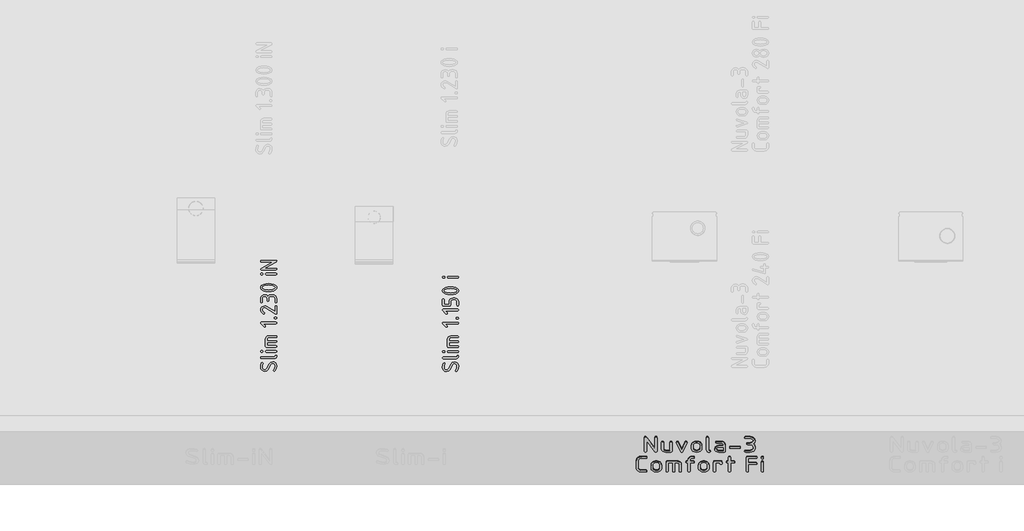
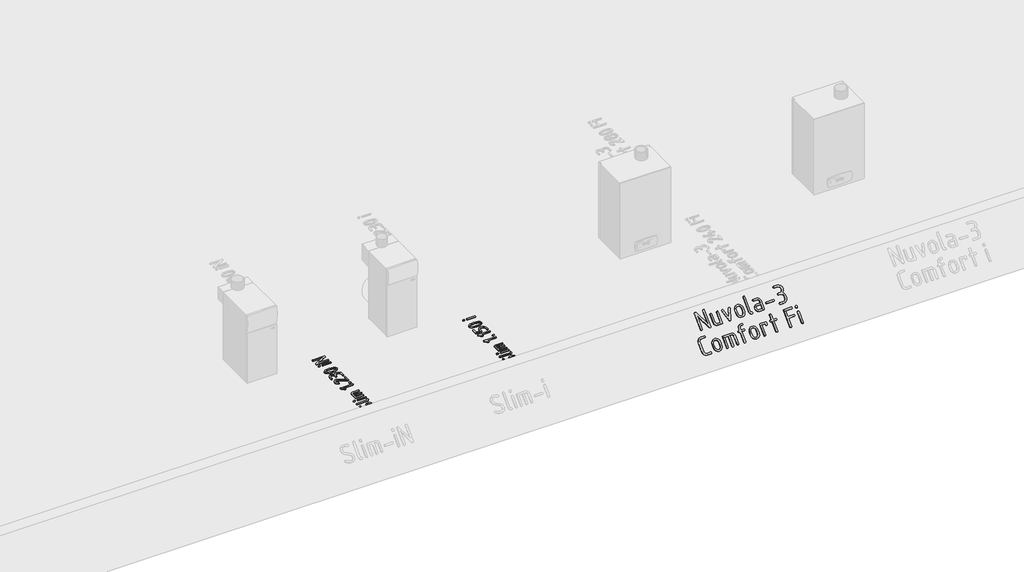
# One storey, part 3 of 37: 3 proxies.
"""IFC4 building model written with IfcOpenShell, lengths in millimetres."""

import ifcopenshell
import ifcopenshell.guid

model = None  # the IFC model being written
_history = None  # IfcOwnerHistory: only IFC2X3 demands one
_inside = {}  # id of a spatial element -> (the spatial element, [elements in it])
_under = {}  # id of a project, library or spatial element -> (it, [spatial elements below it])
_declared = {}  # id of a project -> (the project, [libraries it declares])
_typed = {}  # id of a type object -> (the type object, [elements of that type])
_made_of = {}  # id of a material, layer set ... -> (it, [elements and type objects made of it])


def new_model(schema):
    """Start an empty IFC model of exactly this schema.

    Asked for "IFC4X3", IfcOpenShell would pick the latest addendum, in which some entities
    have other attributes; the version numbers below select the first issue.
    IFC2X3 requires an IfcOwnerHistory on every rooted entity: one is made here for all.
    """
    global model, _history
    if schema == "IFC4X3":
        model = ifcopenshell.file(schema_version=(4, 3, 0, 0))
    else:
        model = ifcopenshell.file(schema=schema)
    _inside.clear()
    _under.clear()
    _declared.clear()
    _typed.clear()
    _made_of.clear()
    _history = None
    if model.schema == "IFC2X3":
        org = make("IfcOrganization", Name="unknown")
        user = make(
            "IfcPersonAndOrganization",
            ThePerson=make("IfcPerson", FamilyName="unknown"),
            TheOrganization=org,
        )
        app = make(
            "IfcApplication",
            ApplicationDeveloper=org,
            Version="unknown",
            ApplicationFullName="unknown",
            ApplicationIdentifier="unknown",
        )
        _history = make(
            "IfcOwnerHistory",
            OwningUser=user,
            OwningApplication=app,
            ChangeAction="ADDED",
            CreationDate=0,
        )
    return model


def make(cls, **values):
    """One entity of the class cls with the attributes given. An attribute that is None is left unset."""
    return model.create_entity(
        cls, **{name: value for name, value in values.items() if value is not None}
    )


def rooted(cls, **values):
    """An entity with a GlobalId (a new one), such as an element, a storey or a relation."""
    return make(cls, GlobalId=ifcopenshell.guid.new(), OwnerHistory=_history, **values)


def si_unit(unit_type, name, prefix=None):
    """IfcSIUnit, for example si_unit("LENGTHUNIT", "METRE", prefix="MILLI")."""
    return make("IfcSIUnit", UnitType=unit_type, Prefix=prefix, Name=name)


def assignment(units):
    """IfcUnitAssignment: the units of a project."""
    return None if units is None else make("IfcUnitAssignment", Units=units)


def point(xyz):
    """IfcCartesianPoint."""
    return None if xyz is None else make("IfcCartesianPoint", Coordinates=xyz)


def direction(xyz):
    """IfcDirection."""
    return None if xyz is None else make("IfcDirection", DirectionRatios=xyz)


def frame(location, z_axis=None, x_axis=None):
    """IfcAxis2Placement3D, a coordinate frame: its origin and axes. An axis left out is left unset."""
    return make(
        "IfcAxis2Placement3D",
        Location=point(location),
        Axis=direction(z_axis),
        RefDirection=direction(x_axis),
    )


def origin():
    """The frame at (0, 0, 0) with its axes left unset."""
    return frame((0.0, 0.0, 0.0))


def origin_with_axes():
    """The frame at (0, 0, 0) with the z axis (0, 0, 1) and the x axis (1, 0, 0) written out."""
    return frame((0.0, 0.0, 0.0), z_axis=(0.0, 0.0, 1.0), x_axis=(1.0, 0.0, 0.0))


def place(relative_to, where):
    """IfcLocalPlacement: puts the frame where relative to a parent placement (None: the world)."""
    return make(
        "IfcLocalPlacement", PlacementRelTo=relative_to, RelativePlacement=where
    )


def context(
    kind, dimensions, precision=None, world=None, true_north=None, identifier=None
):
    """IfcGeometricRepresentationContext, for example the 3D "Model" context."""
    return make(
        "IfcGeometricRepresentationContext",
        ContextIdentifier=identifier,
        ContextType=kind,
        CoordinateSpaceDimension=dimensions,
        Precision=precision,
        WorldCoordinateSystem=world,
        TrueNorth=true_north,
    )


def project(units=None, contexts=None):
    """IfcProject with its units and contexts."""
    return rooted(
        "IfcProject",
        Name="project",
        RepresentationContexts=contexts,
        UnitsInContext=assignment(units),
    )


def spatial(cls, under=None, at=None, **own):
    """A site, building, storey or space (cls), placed at a placement, below another one or the project."""
    s = rooted(cls, ObjectPlacement=at, **own)
    if under is not None:
        _under.setdefault(under.id(), (under, []))[1].append(s)
    return s


def polyline(points):
    """IfcPolyline through the points."""
    return make("IfcPolyline", Points=[point(p) for p in points])


def outline(outer, holes=None, kind="AREA"):
    """IfcArbitraryClosedProfileDef: a profile drawn as a closed curve; with holes, ...WithVoids."""
    if holes is None:
        return make("IfcArbitraryClosedProfileDef", ProfileType=kind, OuterCurve=outer)
    return make(
        "IfcArbitraryProfileDefWithVoids",
        ProfileType=kind,
        OuterCurve=outer,
        InnerCurves=holes,
    )


def extrude(swept, where, along, depth):
    """IfcExtrudedAreaSolid: the profile swept, set in the frame where, extruded along a direction by depth."""
    return make(
        "IfcExtrudedAreaSolid",
        SweptArea=swept,
        Position=where,
        ExtrudedDirection=direction(along),
        Depth=depth,
    )


def shape(context_of_items, identifier, shape_type, items):
    """IfcShapeRepresentation: the items that make up one representation, for example the "Body"."""
    return make(
        "IfcShapeRepresentation",
        ContextOfItems=context_of_items,
        RepresentationIdentifier=identifier,
        RepresentationType=shape_type,
        Items=items,
    )


def made_of(thing, what):
    """Note that an element or type object is made of a material, layer set ...; save() writes the relation."""
    if what is not None:
        _made_of.setdefault(what.id(), (what, []))[1].append(thing)
    return thing


def element(
    cls,
    number,
    at=None,
    inside=None,
    cuts=None,
    type_object=None,
    material=None,
    context=None,
    identifier="Body",
    shape_type=None,
    held_by="IfcProductDefinitionShape",
    body=None,
    shapes=None,
    **own,
):
    """One element of the class cls, such as IfcWall. Its Tag is "e" and its number.

    at: its placement. inside: the storey or other place that contains it. cuts: it is an
    opening in that element (IfcRelVoidsElement). A single representation is given by context,
    identifier, shape_type and body (its items); several are given by shapes. held_by: the class
    of the entity that holds the representations. save() writes the other relations.
    """
    e = rooted(cls, Tag="e%d" % number, ObjectPlacement=at, **own)
    if body is not None:
        shapes = [shape(context, identifier, shape_type, body)]
    if shapes is not None:
        e.Representation = make(held_by, Representations=shapes)
    if inside is not None:
        _inside.setdefault(inside.id(), (inside, []))[1].append(e)
    if cuts is not None:
        rooted(
            "IfcRelVoidsElement", RelatingBuildingElement=cuts, RelatedOpeningElement=e
        )
    if type_object is not None:
        _typed.setdefault(type_object.id(), (type_object, []))[1].append(e)
    return made_of(e, material)


def aggregate(whole, parts):
    """IfcRelAggregates: a whole, such as a stair, and the parts it consists of."""
    return rooted("IfcRelAggregates", RelatingObject=whole, RelatedObjects=parts)


def save(model, path):
    """Write the relations noted so far, then the file.

    IfcRelAggregates (storeys below a building ...), IfcRelContainedInSpatialStructure (elements
    in a storey), IfcRelDefinesByType, IfcRelAssociatesMaterial and IfcRelDeclares: one each for
    every whole, place, type object, material and project.
    """
    for whole, parts in _under.values():
        aggregate(whole, parts)
    for where, things in _inside.values():
        rooted(
            "IfcRelContainedInSpatialStructure",
            RelatedElements=things,
            RelatingStructure=where,
        )
    for kind, things in _typed.values():
        rooted("IfcRelDefinesByType", RelatedObjects=things, RelatingType=kind)
    for what, things in _made_of.values():
        rooted("IfcRelAssociatesMaterial", RelatedObjects=things, RelatingMaterial=what)
    for by, libraries in _declared.values():
        rooted("IfcRelDeclares", RelatingContext=by, RelatedDefinitions=libraries)
    model.write(path)


model = new_model("IFC4")

# Units and contexts
model_context = context("Model", 3, world=origin())
ifc_project = project(units=[si_unit("LENGTHUNIT", "METRE", prefix="MILLI")], contexts=[model_context])

# Site, building, storey
site = spatial("IfcSite", under=ifc_project)
building = spatial("IfcBuilding", under=site)
storey = spatial("IfcBuildingStorey", under=building, Name="01_Стартовый вид_Площадка", Elevation=0.0)

# Proxies
placement = place(None, origin())
element("IfcBuildingElementProxy", 1, Name="200мм", ObjectType="200мм", at=placement, inside=storey, context=model_context, shape_type="SweptSolid", body=[
    extrude(outline(polyline([(165.9671598, 0.0), (40.6608856, 67.170734), (35.2139133, 72.9916979), (36.6196324, 80.9414621), (42.4620105, 86.5129444), (50.3250152, 85.1990626), (209.8569446, -0.3184174), (215.2284159, -6.2802276), (213.5961937, -14.6525307), (204.6529485, -20.7376114), (37.6998645, -20.2091043), (163.146985, -87.4553394), (168.5939573, -93.2763033), (167.1882381, -101.2260674), (161.3458601, -106.7975498), (153.4828554, -105.4836681), (-6.049074, -19.9661881), (-11.4457124, -14.0513265), (-9.8889912, -5.8198697), (-5.9444736, -1.6183991), (0.0, 0.0), (165.9671598, 0.0)])), frame((7586.0225318, -17788.7783658, 342.895709), z_axis=(0.0, -0.7071067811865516, 0.7071067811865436), x_axis=(0.47245297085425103, -0.6232127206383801, -0.6232127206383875)), (0.0, 0.0, 1.0), 10.0),
    extrude(outline(polyline([(7.8963813, 0.0), (121.2937941, -38.8098098), (127.5601634, -43.5725011), (127.5101015, -51.4095223), (111.503211, -98.1796552), (103.80573, -111.7461768), (91.4765408, -120.9968587), (76.511249, -124.9537749), (60.9054607, -122.6389988), (-24.1173995, -93.5402659), (-30.3578956, -88.7019763), (-30.230214, -80.6381603), (-25.39024, -74.1871075), (-17.4938587, -74.1871075), (67.1762096, -103.1650988), (82.2515298, -102.3002329), (92.2362967, -91.3041202), (104.7416798, -54.7649537), (1.2728405, -19.3531584), (-4.9676556, -14.5148688), (-4.8399741, -6.4510528), (0.0, 0.0), (7.8963813, 0.0)])), frame((7822.1098657, -17829.7126865, 301.9613883), z_axis=(0.0, -0.7071067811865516, 0.7071067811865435), x_axis=(0.32380687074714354, -0.6690101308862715, -0.6690101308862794)), (0.0, 0.0, 1.0), 10.0),
    extrude(outline(polyline([(96.1517088, 0.0), (19.2606322, 57.6472069), (15.5287173, 62.6149091), (15.8152429, 68.8515986), (20.5700797, 75.3083542), (28.3862454, 75.3786797), (31.3161309, 73.7258089), (131.0539392, -1.1025435), (135.7413426, -6.7405071), (135.7620595, -13.2342994), (131.8882837, -18.3988127), (124.8584474, -20.1499858), (0.0197136, -19.9445869), (-3.3153034, -19.5042778), (-8.9970028, -14.4888853), (-9.4886026, -6.8829879), (-5.9601388, -1.7013876), (0.0, 0.0), (96.1517088, 0.0)])), frame((7884.6474401, -17832.7731084, 298.9009664), z_axis=(0.0, -0.7071067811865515, 0.7071067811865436), x_axis=(0.31689249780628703, -0.6706635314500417, -0.6706635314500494)), (0.0, 0.0, 1.0), 10.0),
    extrude(outline(polyline([(19.5277269, 0.0), (58.788553, -7.3971647), (76.977393, -14.5033742), (90.8173497, -28.1486773), (98.6171829, -45.8732873), (98.6856532, -65.2174179), (91.5847544, -83.4140343), (77.9948347, -97.0679287), (60.19967, -104.6308689), (40.4830362, -104.5546222), (1.2222101, -97.1574575), (-16.96663, -90.0512481), (-30.8065866, -76.405945), (-38.6064198, -58.681335), (-38.6748901, -39.3372044), (-31.5717162, -21.3442893), (-17.856617, -7.6733255), (0.0, 0.0), (19.5277269, 0.0)]), holes=[polyline([(5.5853839, -77.1644064), (44.8985577, -84.5714339), (56.5989582, -84.6144501), (67.3060997, -80.1473936), (75.5187712, -72.1612621), (79.7357613, -61.6470531), (79.6340604, -50.3191559), (74.8906592, -39.89196), (66.5432132, -31.8348129), (55.6293779, -27.6170623), (16.3162041, -20.2100347), (4.5148066, -20.1276624), (-6.1812392, -24.5358276), (-14.3509512, -32.5097259), (-18.5733473, -43.1245527), (-18.4716465, -54.4524499), (-13.7282453, -64.8796457), (-5.3677123, -72.9392586), (5.5853839, -77.1644064)])]), frame((8008.9701672, -17905.0649832, 226.6090916), z_axis=(0.0, -0.7071067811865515, 0.7071067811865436), x_axis=(-0.18515314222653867, 0.6948806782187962, 0.6948806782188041)), (0.0, 0.0, 1.0), 10.0),
    extrude(outline(polyline([(160.9250531, 0.0), (168.4759059, -2.5569025), (170.9928568, -10.2276101), (168.4759059, -17.8983177), (160.9250531, -20.4552202), (0.0, -20.4552202), (-6.365622, -22.9521954), (-10.014535, -30.4431208), (-13.6767652, -37.9340461), (-20.0823387, -40.4310213), (-27.6331915, -37.9407047), (-30.1501423, -30.4697552), (-28.1525623, -18.1713203), (-22.159822, -8.4431052), (-12.6247063, -2.1107763), (0.0, 0.0), (160.9250531, 0.0)])), frame((8145.1318857, -17905.4699005, 226.2041743), z_axis=(0.0, -0.7071067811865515, 0.7071067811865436), x_axis=(0.0, 0.7071067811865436, 0.7071067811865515)), (0.0, 0.0, 1.0), 10.0),
    extrude(outline(polyline([(50.2324811, 0.0), (65.7203855, -2.9630771), (78.6247529, -11.8523086), (87.3342022, -25.0429959), (90.2373519, -40.9104405), (84.9104717, -61.5254671), (70.5678465, -76.7470275), (50.2324811, -81.820881), (10.2276102, -81.820881), (10.2276102, -100.5714995), (15.9806409, -113.9153346), (30.2034112, -119.3221182), (70.2082821, -119.3221182), (77.7191833, -121.8790207), (80.222817, -129.5497283), (77.7191833, -137.2204358), (70.2082821, -139.7773383), (30.2034112, -139.7773383), (14.628945, -136.8875059), (1.5714297, -128.2180082), (-7.2778501, -115.3402751), (-10.2276101, -99.8257363), (-10.2276101, -9.9612661), (-7.6707076, -2.4903165), (0.0, 0.0), (50.2324811, 0.0)]), holes=[polyline([(10.2276102, -61.3656607), (50.2324811, -61.3656607), (57.9231645, -59.8741343), (64.3753482, -55.3995548), (68.7500486, -48.7942233), (70.2082821, -40.9104405), (64.295445, -26.5012294), (57.8232854, -21.9667224), (50.2324811, -20.4552202), (10.2276102, -20.4552202), (10.2276102, -61.3656607)])]), frame((8312.1828512, -17926.7892706, 204.8848042), z_axis=(0.0, -0.7071067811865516, 0.7071067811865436), x_axis=(-1.0, 0.0, 0.0)), (0.0, 0.0, 1.0), 10.0),
    extrude(outline(polyline([(7.934191, 0.0), (83.6754056, -25.7842432), (89.9616024, -30.6252263), (89.8596757, -38.6935314), (85.0176197, -45.1481756), (77.0834286, -45.1481755), (1.3422141, -19.3639323), (-4.9439827, -14.5229492), (-4.8420559, -6.454644), (0.0, 0.0), (7.934191, 0.0)])), frame((8460.3766605, -17888.8212051, 242.8528697), z_axis=(0.0, -0.7071067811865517, 0.7071067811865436), x_axis=(-0.9466499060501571, -0.22787491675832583, -0.22787491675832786)), (0.0, 0.0, 1.0), 10.0),
    extrude(outline(polyline([(11.7053441, 0.0), (31.3410585, 3.6703332), (39.1938897, 2.537007), (43.0643073, -4.5430923), (42.0127057, -12.5432218), (35.0994797, -16.4366385), (15.4637653, -20.1069717), (4.4652691, -24.43209), (-3.8154004, -32.787719), (-8.4170171, -43.7206871), (-8.3783556, -55.7778225), (-4.0517069, -66.9657026), (4.2497875, -75.5003524), (15.0165566, -80.3362531), (26.7390288, -80.4278864), (66.0628196, -73.0774325), (73.9156509, -74.2107586), (77.7860684, -81.2908578), (76.7344668, -89.2909873), (69.8212408, -93.184404), (30.49745, -100.5348579), (10.8458725, -100.387662), (-7.2665742, -92.3117814), (-21.2427029, -78.0977854), (-28.4853271, -59.5362437), (-27.7768506, -36.0744134), (-16.3140932, -15.6421798), (-34.2831279, -1.266837), (-43.2938981, 19.6873188), (-46.9348687, 39.1659475), (-46.7759269, 58.6097289), (-38.723534, 76.4129584), (-24.658181, 90.0971196), (-6.4603584, 97.1836959), (32.8634324, 104.5341498), (40.7162637, 103.4008237), (44.5866812, 96.3207245), (43.5350796, 88.320595), (36.6218536, 84.4271783), (-2.7019372, 77.0767244), (-13.7175616, 72.8432393), (-22.0496157, 64.7625103), (-26.727086, 54.235347), (-26.7789594, 42.6625591), (-23.177139, 23.393378), (-18.9410252, 12.6898456), (-10.7153843, 4.5610006), (0.0, 0.0), (11.7053441, 0.0)])), frame((8563.0256434, -17858.400611, 273.2734638), z_axis=(0.0, -0.7071067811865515, 0.7071067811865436), x_axis=(-0.9829750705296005, 0.12992307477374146, 0.12992307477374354)), (0.0, 0.0, 1.0), 10.0),
    extrude(outline(polyline([(40.0048709, 0.0), (47.515772, -2.5569025), (50.0194058, -10.2276102), (47.515772, -17.8983177), (40.0048709, -20.4552203), (0.0, -20.4552203), (-11.6059404, -22.6525583), (-21.2808867, -29.2445727), (-27.8129737, -38.952812), (-29.990336, -50.498825), (-29.990336, -150.6441742), (-27.7929979, -162.1901872), (-21.2009835, -171.8984266), (-11.5060614, -178.4904408), (0.0, -180.687779), (40.0048709, -180.687779), (47.515772, -183.2446815), (50.0194058, -190.9153891), (47.515772, -198.5860967), (40.0048709, -201.1429993), (0.0, -201.1429993), (-19.2899652, -197.4674519), (-35.6101947, -186.4408097), (-46.7367159, -170.1938249), (-50.4455562, -150.8572495), (-50.4455562, -50.2857498), (-46.7367159, -30.9491744), (-35.6101947, -14.7021895), (-19.2899652, -3.6755474), (0.0, 0.0), (40.0048709, 0.0)])), frame((7539.3057918, -17969.373123, 162.3009518), z_axis=(0.0, -0.7071067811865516, 0.7071067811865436), x_axis=(1.0, 0.0, 0.0)), (0.0, 0.0, 1.0), 10.0),
    extrude(outline(polyline([(19.5277269, 0.0), (58.788553, -7.3971647), (76.977393, -14.5033742), (90.8173496, -28.1486773), (98.6171829, -45.8732873), (98.6856532, -65.2174179), (91.5847544, -83.4140343), (77.9948347, -97.0679287), (60.19967, -104.6308689), (40.4830362, -104.5546223), (1.2222101, -97.1574576), (-16.96663, -90.0512481), (-30.8065866, -76.405945), (-38.6064198, -58.681335), (-38.6748903, -39.3372044), (-31.5717162, -21.3442893), (-17.856617, -7.6733255), (0.0, 0.0), (19.5277269, 0.0)]), holes=[polyline([(5.5853839, -77.1644064), (44.8985576, -84.5714339), (56.5989582, -84.6144501), (67.3060997, -80.1473937), (75.5187712, -72.1612621), (79.7357613, -61.6470531), (79.6340604, -50.3191559), (74.8906592, -39.8919599), (66.5432132, -31.8348129), (55.6293778, -27.6170623), (16.3162041, -20.2100347), (4.5148066, -20.1276624), (-6.1812392, -24.5358276), (-14.3509512, -32.5097259), (-18.5733473, -43.1245527), (-18.4716465, -54.4524499), (-13.7282453, -64.8796458), (-5.3677123, -72.9392586), (5.5853839, -77.1644064)])]), frame((7632.253194, -18089.8784143, 41.7956605), z_axis=(0.0, -0.7071067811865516, 0.7071067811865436), x_axis=(-0.18515314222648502, 0.6948806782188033, 0.6948806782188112)), (0.0, 0.0, 1.0), 10.0),
    extrude(outline(polyline([(8.0648268, 0.0), (95.6150095, -28.42341), (109.8146858, -36.0716859), (119.6837276, -48.390632), (124.162071, -63.3839268), (122.1896524, -79.0552479), (94.4406404, -164.5281403), (89.7017561, -170.8444537), (81.6369293, -170.8444538), (75.110059, -166.1072187), (74.9850443, -158.211827), (102.6189151, -73.0935938), (103.610512, -65.2736838), (101.3875032, -57.8242882), (96.4501456, -51.7058983), (89.2986962, -47.8790061), (69.8431, -41.5626928), (36.0738519, -145.5792003), (31.3349677, -151.8955137), (23.2701408, -151.8955138), (16.7432705, -147.1582787), (16.6182558, -139.262887), (50.3875039, -35.2463794), (11.4763116, -22.6137528), (-22.2929365, -126.6302604), (-27.0318208, -132.9465737), (-35.0966477, -132.9465738), (-41.6235179, -128.2093387), (-41.7485327, -120.313947), (-4.7388842, -6.3163133), (0.0, 0.0), (8.0648268, 0.0)])), frame((7770.971815, -18014.5261176, 117.1479572), z_axis=(0.0, -0.7071067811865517, 0.7071067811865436), x_axis=(0.9511311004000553, 0.21834563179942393, 0.21834563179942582)), (0.0, 0.0, 1.0), 10.0),
    extrude(outline(polyline([(7.934191, 0.0), (17.4144495, -3.2273221), (24.0064265, 16.1366103), (31.937533, 30.1983411), (44.6412242, 39.8077515), (59.9046175, 44.0019023), (75.5148299, 41.8178539), (84.9950884, 38.5905318), (91.243465, 33.7624237), (91.1289316, 25.6984102), (86.2994823, 19.2394745), (78.4031114, 19.2265995), (68.9228529, 22.4539216), (61.1239831, 23.533272), (53.5614223, 21.3810086), (47.2914533, 16.5378797), (43.3703589, 9.5446333), (36.7783819, -9.8192991), (65.2191575, -19.5012652), (71.4675341, -24.3293733), (71.3530007, -32.3933868), (66.5235514, -38.8523225), (58.6271806, -38.8651975), (30.186405, -29.1832313), (-5.0566385, -132.7096717), (-9.8847467, -138.9580483), (-17.9487602, -138.8435149), (-24.4076959, -134.0140656), (-24.4205709, -126.1176947), (10.8224726, -22.5912543), (1.3422141, -19.3639323), (-4.9439827, -14.5229492), (-4.842056, -6.4546441), (0.0, 0.0), (7.934191, 0.0)])), frame((7955.441679, -18014.573201, 117.1008738), z_axis=(0.0, -0.7071067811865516, 0.7071067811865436), x_axis=(0.9466499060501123, 0.2278749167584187, 0.22787491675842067)), (0.0, 0.0, 1.0), 10.0),
    extrude(outline(polyline([(19.5277269, 0.0), (58.788553, -7.3971647), (76.977393, -14.5033742), (90.8173496, -28.1486772), (98.6171829, -45.8732872), (98.6856532, -65.2174178), (91.5847544, -83.4140342), (77.9948347, -97.0679287), (60.19967, -104.6308688), (40.4830362, -104.5546222), (1.2222101, -97.1574575), (-16.96663, -90.051248), (-30.8065866, -76.405945), (-38.6064198, -58.6813349), (-38.6748903, -39.3372043), (-31.5717162, -21.3442892), (-17.856617, -7.6733254), (0.0, 0.0), (19.5277269, 0.0)]), holes=[polyline([(5.5853839, -77.1644063), (44.8985576, -84.5714338), (56.5989582, -84.61445), (67.3060997, -80.1473936), (75.5187712, -72.161262), (79.7357613, -61.647053), (79.6340604, -50.3191559), (74.8906592, -39.8919599), (66.5432132, -31.8348128), (55.6293778, -27.6170622), (16.3162041, -20.2100346), (4.5148067, -20.1276623), (-6.1812392, -24.5358276), (-14.3509512, -32.5097258), (-18.5733473, -43.1245526), (-18.4716464, -54.4524498), (-13.7282453, -64.8796457), (-5.3677123, -72.9392585), (5.5853839, -77.1644063)])]), frame((8075.4496331, -18089.8784143, 41.7956605), z_axis=(0.0, -0.7071067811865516, 0.7071067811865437), x_axis=(-0.1851531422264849, 0.6948806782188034, 0.6948806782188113)), (0.0, 0.0, 1.0), 10.0),
    extrude(outline(polyline([(119.8548062, 0.0), (127.3257557, -2.5569026), (129.8160723, -10.2276102), (129.8160723, -70.4746261), (127.2591698, -77.9455757), (119.5884622, -80.4358922), (99.3463171, -80.4358922), (91.8354159, -77.9455757), (89.3317822, -70.4746261), (91.8354159, -62.9637249), (99.3463171, -60.4600912), (109.3608521, -60.4600912), (109.3608521, -20.4552203), (0.0, -20.4552203), (-7.4709496, -17.8983178), (-9.9612662, -10.2276102), (-7.4709496, -2.5569026), (0.0, 0.0), (119.8548062, 0.0)])), frame((8211.6113515, -18104.5590229, 27.1150519), z_axis=(0.0, -0.7071067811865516, 0.7071067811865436), x_axis=(0.0, 0.7071067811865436, 0.7071067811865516)), (0.0, 0.0, 1.0), 10.0),
    extrude(outline(polyline([(109.3608521, 0.0), (109.3608521, 10.0145349), (111.9177546, 17.5254361), (119.5884622, 20.0290698), (127.2591698, 17.5254361), (129.8160723, 10.0145349), (129.8160723, 0.0), (180.9541229, 0.0), (188.6248306, -2.5569025), (191.1817331, -10.2276101), (188.6248306, -17.8983177), (180.9541229, -20.4552203), (129.8160723, -20.4552203), (129.8160723, -50.498825), (127.2591698, -57.9697746), (119.5884622, -60.4600911), (111.9177546, -57.9697746), (109.3608521, -50.498825), (109.3608521, -20.4552203), (0.0, -20.4552203), (-7.4709496, -17.8983177), (-9.9612662, -10.2276101), (-7.4709496, -2.5569025), (0.0, 0.0), (109.3608521, 0.0)])), frame((8351.38869, -18104.5590229, 27.1150519), z_axis=(0.0, -0.7071067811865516, 0.7071067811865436), x_axis=(0.0, 0.7071067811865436, 0.7071067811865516)), (0.0, 0.0, 1.0), 10.0),
    extrude(outline(polyline([(7.9720216, 0.0), (179.416636, -58.0553192), (185.7484838, -62.8989575), (185.6722013, -70.971688), (159.9419745, -146.956264), (155.1111501, -153.2502709), (147.0426908, -153.1613747), (140.5802352, -148.3297495), (140.5674213, -140.3955688), (163.0173004, -74.0982693), (104.8936407, -54.4161835), (82.4437616, -120.7134829), (77.6129371, -127.0074898), (69.5444779, -126.9185936), (63.0820221, -122.0869683), (63.0692083, -114.1527876), (85.5190874, -47.8554882), (1.2599626, -19.3232978), (-4.9583623, -14.5181011), (-4.844239, -6.4581844), (0.0, 0.0), (7.9720216, 0.0)])), frame((8520.996558, -18109.8229487, 21.8511261), z_axis=(0.0, -0.7071067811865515, 0.7071067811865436), x_axis=(-0.32073452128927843, 0.669749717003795, 0.6697497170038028)), (0.0, 0.0, 1.0), 10.0),
    extrude(outline(polyline([(-40.4252129, 16.4627759), (-34.1768363, 11.6346677), (-34.2913697, 3.5706542), (-39.120819, -2.8882816), (-47.0171899, -2.9011565), (-160.6290116, 35.7752083), (-166.9152084, 40.6161914), (-166.8132817, 48.6844966), (-161.9712257, 55.1391407), (-154.0370346, 55.1391407), (-40.4252129, 16.4627759)])), frame((8660.7738965, -17988.8468233, 142.8272515), z_axis=(0.0, -0.7071067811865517, 0.7071067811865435), x_axis=(-0.3222637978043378, 0.6693825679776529, 0.6693825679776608)), (0.0, 0.0, 1.0), 10.0),
    extrude(outline(polyline([(7.9341911, 0.0), (17.4144496, -3.227322), (23.7006464, -8.0683052), (23.5987197, -16.1366103), (18.7566637, -22.5912544), (10.8224727, -22.5912544), (1.3422141, -19.3639323), (-4.9439827, -14.5229493), (-4.8420559, -6.4546441), (0.0, 0.0), (7.9341911, 0.0)])), frame((8660.7738965, -17988.8468233, 142.8272515), z_axis=(0.0, -0.7071067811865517, 0.7071067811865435), x_axis=(-0.3222637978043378, 0.6693825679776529, 0.6693825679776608)), (0.0, 0.0, 1.0), 10.0),
])
element("IfcBuildingElementProxy", 2, Name="150 мм", ObjectType="150 мм", at=placement, inside=storey, context=model_context, shape_type="SweptSolid", body=[
    extrude(outline(polyline([(5792.553865, -17089.3955221), (5806.9464297, -17092.1372008), (5819.1216804, -17100.3622369), (5827.4216257, -17112.4226268), (5830.1882742, -17126.6703669), (5826.0033439, -17152.6888477), (5813.4485529, -17175.6110794), (5807.3359578, -17178.8871108), (5802.0423705, -17176.6897727), (5799.8250566, -17171.4561128), (5801.1834111, -17167.221243), (5811.6507308, -17146.7660227), (5814.846859, -17126.9899797), (5813.1938614, -17118.4403368), (5808.2348688, -17111.2490485), (5800.9387075, -17106.3649651), (5792.2742038, -17104.7369373), (5780.308699, -17107.8231986), (5772.0586931, -17117.0819824), (5750.4049248, -17158.7914549), (5736.7914164, -17173.8631968), (5716.9654339, -17178.8871108), (5702.5728692, -17176.1604139), (5690.3976185, -17167.9803234), (5682.0976732, -17155.9848549), (5679.3310247, -17141.8120241), (5681.4184959, -17118.6301069), (5687.6809096, -17101.660664), (5694.6724399, -17097.2260361), (5699.9660272, -17099.44335), (5702.1833411, -17104.7369373), (5701.3843091, -17107.8531623), (5696.3504072, -17124.7327142), (5694.6724399, -17141.4924112), (5696.3254375, -17149.9671448), (5701.2844301, -17157.0935118), (5708.5805914, -17161.9326496), (5717.2450951, -17163.5456956), (5729.1806362, -17160.5093738), (5737.3407509, -17151.4004085), (5758.9945193, -17109.7308876), (5772.6979188, -17094.4793635), (5792.553865, -17089.3955221)])), origin_with_axes(), (0.0, 0.0, 1.0), 10.0),
    extrude(outline(polyline([(5686.8818775, -17058.7126917), (5681.2187379, -17056.7950148), (5679.3310247, -17051.0419841), (5681.2187379, -17045.2889534), (5686.8818775, -17043.3712765), (5807.5756674, -17043.3712765), (5812.3498838, -17041.4985452), (5815.0865686, -17035.8803511), (5817.8332412, -17030.2621571), (5822.6374214, -17028.3894258), (5828.300561, -17030.2571632), (5830.1882742, -17035.8603753), (5828.6900891, -17045.0842015), (5824.1955339, -17052.3803628), (5817.0441971, -17057.1296095), (5807.5756674, -17058.7126917), (5686.8818775, -17058.7126917)])), origin_with_axes(), (0.0, 0.0, 1.0), 10.0),
    extrude(outline(polyline([(5732.6664135, -16999.9039335), (5727.0632013, -16997.9862566), (5725.1954639, -16992.2332259), (5727.0632013, -16986.4801952), (5732.6664135, -16984.5625183), (5822.677373, -16984.5625183), (5828.3105489, -16986.4801952), (5830.1882742, -16992.2332259), (5828.3105489, -16997.9862566), (5822.677373, -16999.9039335), (5732.6664135, -16999.9039335)])), origin_with_axes(), (0.0, 0.0, 1.0), 10.0),
    extrude(outline(polyline([(5694.3528271, -16999.9039335), (5686.8419259, -16999.9039335), (5681.20875, -16997.9862566), (5679.3310247, -16992.2332259), (5681.20875, -16986.4801952), (5686.8419259, -16984.5625183), (5694.3528271, -16984.5625183), (5699.986003, -16986.4801952), (5701.8637283, -16992.2332259), (5699.986003, -16997.9862566), (5694.3528271, -16999.9039335)])), origin_with_axes(), (0.0, 0.0, 1.0), 10.0),
    extrude(outline(polyline([(5725.3552703, -16946.2089803), (5725.3552703, -16877.1726119), (5727.5226447, -16865.2720284), (5734.024768, -16855.379013), (5743.6830678, -16848.7120894), (5755.3189719, -16846.4897815), (5822.7173246, -16846.4897815), (5828.3205368, -16848.4074584), (5830.1882742, -16854.1604891), (5828.3205368, -16859.9135198), (5822.7173246, -16861.8311967), (5755.5986331, -16861.8311967), (5744.9914827, -16866.2458487), (5740.6966855, -16877.1726119), (5740.6966855, -16892.5140271), (5822.7173246, -16892.5140271), (5828.3205368, -16894.431704), (5830.1882742, -16900.1847347), (5828.3205368, -16905.9377654), (5822.7173246, -16907.8554423), (5740.6966855, -16907.8554423), (5740.6966855, -16938.5382727), (5822.7173246, -16938.5382727), (5828.3205368, -16940.4559496), (5830.1882742, -16946.2089803), (5828.3205368, -16951.962011), (5822.7173246, -16953.8796879), (5732.8262199, -16953.8796879), (5727.2230077, -16951.962011), (5725.3552703, -16946.2089803)])), origin_with_axes(), (0.0, 0.0, 1.0), 10.0),
    extrude(outline(polyline([(5705.0598565, -16733.98607), (5722.3589002, -16751.2451621), (5724.5162867, -16756.478822), (5722.6385614, -16762.1119979), (5717.0053855, -16763.9897232), (5711.7717256, -16761.7923851), (5682.2874433, -16732.4679092), (5679.3310247, -16726.3153625), (5681.2187379, -16720.5623318), (5686.8818775, -16718.6446549), (5822.6374214, -16718.6446549), (5828.300561, -16720.5623318), (5830.1882742, -16726.3153625), (5828.300561, -16732.0683931), (5822.6374214, -16733.98607), (5705.0598565, -16733.98607)])), origin_with_axes(), (0.0, 0.0, 1.0), 10.0),
    extrude(outline(polyline([(5814.846859, -16687.9618245), (5809.0938283, -16686.0441476), (5807.1761514, -16680.2911169), (5809.0938283, -16674.5380862), (5814.846859, -16672.6204093), (5822.5175666, -16672.6204093), (5828.2705973, -16674.5380862), (5830.1882742, -16680.2911169), (5828.2705973, -16686.0441476), (5822.5175666, -16687.9618245), (5814.846859, -16687.9618245)])), origin_with_axes(), (0.0, 0.0, 1.0), 10.0),
    extrude(outline(polyline([(5705.0598565, -16611.2547485), (5722.3589002, -16628.5138406), (5724.5162867, -16633.7475004), (5722.6385614, -16639.3806763), (5717.0053855, -16641.2584016), (5711.7717256, -16639.0610635), (5682.2874433, -16609.7365876), (5679.3310247, -16603.5840409), (5681.2187379, -16597.8310102), (5686.8818775, -16595.9133333), (5822.6374214, -16595.9133333), (5828.300561, -16597.8310102), (5830.1882742, -16603.5840409), (5828.300561, -16609.3370716), (5822.6374214, -16611.2547485), (5705.0598565, -16611.2547485)])), origin_with_axes(), (0.0, 0.0, 1.0), 10.0),
    extrude(outline(polyline([(5748.3673931, -16565.2305029), (5687.0017323, -16565.2305029), (5681.2487016, -16563.3927292), (5679.3310247, -16557.8794081), (5679.3310247, -16506.4217446), (5681.2487016, -16500.7885687), (5687.0017323, -16498.9108434), (5692.754763, -16500.7885687), (5694.6724399, -16506.4217446), (5694.6724399, -16549.8890877), (5740.6966855, -16549.8890877), (5740.6966855, -16527.8358033), (5743.4383642, -16513.7029241), (5751.6634003, -16501.8273104), (5763.7237902, -16493.7670747), (5777.9715303, -16491.0803294), (5792.9134294, -16491.0803294), (5807.2360788, -16493.8070263), (5819.2814868, -16501.9871168), (5827.4615773, -16513.9825853), (5830.1882742, -16528.1554161), (5830.1882742, -16557.7995049), (5828.2705973, -16563.3727534), (5822.5175666, -16565.2305029), (5816.7645359, -16563.3927292), (5814.846859, -16557.8794081), (5814.846859, -16528.475029), (5813.2438009, -16519.9503559), (5808.4346268, -16512.8339768), (5801.3182477, -16508.0248027), (5792.7935746, -16506.4217446), (5778.0913851, -16506.4217446), (5769.6166515, -16508.0347906), (5762.4902844, -16512.8739284), (5757.6511466, -16520.0002954), (5756.0381007, -16528.475029), (5756.0381007, -16557.8794081), (5754.1204238, -16563.3927292), (5748.3673931, -16565.2305029)])), origin_with_axes(), (0.0, 0.0, 1.0), 10.0),
    extrude(outline(polyline([(5754.7596494, -16386.2473256), (5779.8991951, -16387.8753534), (5801.3831691, -16392.7594367), (5822.9869979, -16405.1743971), (5828.3879551, -16413.5317728), (5830.1882742, -16423.3224123), (5828.395446, -16433.1130518), (5823.0169616, -16441.4704275), (5801.5030239, -16453.8853879), (5779.9890862, -16458.7694712), (5754.7596494, -16460.397499), (5729.5302127, -16458.7694712), (5708.016275, -16453.8853879), (5686.5023373, -16441.4704275), (5681.1238529, -16433.1130518), (5679.3310247, -16423.3224123), (5681.1313438, -16413.5317728), (5686.532301, -16405.1743971), (5708.1361298, -16392.7594367), (5729.6201038, -16387.8753534), (5754.7596494, -16386.2473256)]), holes=[polyline([(5754.7596494, -16401.5887408), (5719.6022396, -16405.4240946), (5700.9048898, -16412.815141), (5694.6724399, -16423.3224123), (5700.9348535, -16433.7397925), (5719.7220944, -16441.1008752), (5754.7596494, -16445.0560838), (5789.9170593, -16441.22073), (5808.614409, -16433.8296836), (5814.846859, -16423.3224123), (5808.614409, -16412.815141), (5789.9170593, -16405.4240946), (5754.7596494, -16401.5887408)])]), origin_with_axes(), (0.0, 0.0, 1.0), 10.0),
    extrude(outline(polyline([(5732.6664135, -16304.4264445), (5727.0632013, -16302.5087676), (5725.1954639, -16296.7557369), (5727.0632013, -16291.0027062), (5732.6664135, -16289.0850293), (5822.677373, -16289.0850293), (5828.3105489, -16291.0027062), (5830.1882742, -16296.7557369), (5828.3105489, -16302.5087676), (5822.677373, -16304.4264445), (5732.6664135, -16304.4264445)])), origin_with_axes(), (0.0, 0.0, 1.0), 10.0),
    extrude(outline(polyline([(5694.3528271, -16304.4264445), (5686.8419259, -16304.4264445), (5681.20875, -16302.5087676), (5679.3310247, -16296.7557369), (5681.20875, -16291.0027062), (5686.8419259, -16289.0850293), (5694.3528271, -16289.0850293), (5699.986003, -16291.0027062), (5701.8637283, -16296.7557369), (5699.986003, -16302.5087676), (5694.3528271, -16304.4264445)])), origin_with_axes(), (0.0, 0.0, 1.0), 10.0),
])
element("IfcBuildingElementProxy", 3, Name="150 мм", ObjectType="150 мм", at=placement, inside=storey, context=model_context, shape_type="SweptSolid", body=[
    extrude(outline(polyline([(4092.553865, -17087.3041079), (4106.9464297, -17090.0457866), (4119.1216804, -17098.2708227), (4127.4216257, -17110.3312126), (4130.1882742, -17124.5789527), (4126.0033439, -17150.5974335), (4113.4485529, -17173.5196652), (4107.3359578, -17176.7956966), (4102.0423705, -17174.5983585), (4099.8250566, -17169.3646986), (4101.1834111, -17165.1298288), (4111.6507308, -17144.6746085), (4114.846859, -17124.8985655), (4113.1938614, -17116.3489227), (4108.2348688, -17109.1576343), (4100.9387075, -17104.2735509), (4092.2742038, -17102.6455231), (4080.308699, -17105.7317844), (4072.0586931, -17114.9905682), (4050.4049248, -17156.7000408), (4036.7914164, -17171.7717826), (4016.9654339, -17176.7956966), (4002.5728692, -17174.0689998), (3990.3976185, -17165.8889092), (3982.0976732, -17153.8934407), (3979.3310247, -17139.7206099), (3981.4184959, -17116.5386928), (3987.6809096, -17099.5692498), (3994.6724399, -17095.134622), (3999.9660272, -17097.3519359), (4002.1833411, -17102.6455231), (4001.3843091, -17105.7617481), (3996.3504072, -17122.6413), (3994.6724399, -17139.4009971), (3996.3254375, -17147.8757306), (4001.2844301, -17155.0020977), (4008.5805914, -17159.8412355), (4017.2450951, -17161.4542814), (4029.1806362, -17158.4179596), (4037.3407509, -17149.3089944), (4058.9945193, -17107.6394734), (4072.6979188, -17092.3879493), (4092.553865, -17087.3041079)])), origin_with_axes(), (0.0, 0.0, 1.0), 10.0),
    extrude(outline(polyline([(3986.8818775, -17056.6212776), (3981.2187379, -17054.7036007), (3979.3310247, -17048.95057), (3981.2187379, -17043.1975393), (3986.8818775, -17041.2798624), (4107.5756674, -17041.2798624), (4112.3498838, -17039.407131), (4115.0865686, -17033.788937), (4117.8332412, -17028.1707429), (4122.6374214, -17026.2980116), (4128.300561, -17028.165749), (4130.1882742, -17033.7689612), (4128.6900891, -17042.9927873), (4124.1955339, -17050.2889486), (4117.0441971, -17055.0381953), (4107.5756674, -17056.6212776), (3986.8818775, -17056.6212776)])), origin_with_axes(), (0.0, 0.0, 1.0), 10.0),
    extrude(outline(polyline([(4032.6664135, -16997.8125193), (4027.0632013, -16995.8948424), (4025.1954639, -16990.1418117), (4027.0632013, -16984.388781), (4032.6664135, -16982.4711041), (4122.677373, -16982.4711041), (4128.3105489, -16984.388781), (4130.1882742, -16990.1418117), (4128.3105489, -16995.8948424), (4122.677373, -16997.8125193), (4032.6664135, -16997.8125193)])), origin_with_axes(), (0.0, 0.0, 1.0), 10.0),
    extrude(outline(polyline([(3994.3528271, -16997.8125193), (3986.8419259, -16997.8125193), (3981.20875, -16995.8948424), (3979.3310247, -16990.1418117), (3981.20875, -16984.388781), (3986.8419259, -16982.4711041), (3994.3528271, -16982.4711041), (3999.986003, -16984.388781), (4001.8637283, -16990.1418117), (3999.986003, -16995.8948424), (3994.3528271, -16997.8125193)])), origin_with_axes(), (0.0, 0.0, 1.0), 10.0),
    extrude(outline(polyline([(4025.3552703, -16944.1175661), (4025.3552703, -16875.0811977), (4027.5226447, -16863.1806142), (4034.024768, -16853.2875988), (4043.6830678, -16846.6206752), (4055.3189719, -16844.3983673), (4122.7173246, -16844.3983673), (4128.3205368, -16846.3160442), (4130.1882742, -16852.0690749), (4128.3205368, -16857.8221056), (4122.7173246, -16859.7397825), (4055.5986331, -16859.7397825), (4044.9914827, -16864.1544345), (4040.6966855, -16875.0811977), (4040.6966855, -16890.4226129), (4122.7173246, -16890.4226129), (4128.3205368, -16892.3402898), (4130.1882742, -16898.0933205), (4128.3205368, -16903.8463512), (4122.7173246, -16905.7640281), (4040.6966855, -16905.7640281), (4040.6966855, -16936.4468585), (4122.7173246, -16936.4468585), (4128.3205368, -16938.3645354), (4130.1882742, -16944.1175661), (4128.3205368, -16949.8705968), (4122.7173246, -16951.7882737), (4032.8262199, -16951.7882737), (4027.2230077, -16949.8705968), (4025.3552703, -16944.1175661)])), origin_with_axes(), (0.0, 0.0, 1.0), 10.0),
    extrude(outline(polyline([(4005.0598565, -16731.8946559), (4022.3589002, -16749.153748), (4024.5162867, -16754.3874078), (4022.6385614, -16760.0205837), (4017.0053855, -16761.898309), (4011.7717256, -16759.7009709), (3982.2874433, -16730.376495), (3979.3310247, -16724.2239483), (3981.2187379, -16718.4709176), (3986.8818775, -16716.5532407), (4122.6374214, -16716.5532407), (4128.300561, -16718.4709176), (4130.1882742, -16724.2239483), (4128.300561, -16729.976979), (4122.6374214, -16731.8946559), (4005.0598565, -16731.8946559)])), origin_with_axes(), (0.0, 0.0, 1.0), 10.0),
    extrude(outline(polyline([(4114.846859, -16685.8704103), (4109.0938283, -16683.9527334), (4107.1761514, -16678.1997027), (4109.0938283, -16672.446672), (4114.846859, -16670.5289951), (4122.5175666, -16670.5289951), (4128.2705973, -16672.446672), (4130.1882742, -16678.1997027), (4128.2705973, -16683.9527334), (4122.5175666, -16685.8704103), (4114.846859, -16685.8704103)])), origin_with_axes(), (0.0, 0.0, 1.0), 10.0),
    extrude(outline(polyline([(3979.3310247, -16602.6911748), (3982.0826913, -16588.2636525), (3990.3376911, -16576.1433352), (4002.49796, -16567.9182991), (4016.9654339, -16565.1766204), (4027.7623543, -16566.8845514), (4038.6591538, -16572.0083444), (4114.846859, -16619.2710896), (4114.846859, -16572.6875216), (4116.7645359, -16567.0543457), (4122.5175666, -16565.1766204), (4128.2705973, -16567.0543457), (4130.1882742, -16572.6875216), (4130.1882742, -16632.6948279), (4128.3105489, -16638.3280038), (4122.677373, -16640.2057291), (4118.3226484, -16638.9272778), (4029.7099949, -16583.9538734), (4017.2450951, -16580.1984228), (4008.5805914, -16581.8464264), (4001.2844301, -16586.7904371), (3996.3254375, -16594.0616287), (3994.6724399, -16602.6911748), (3999.386729, -16614.9263529), (4013.5295961, -16626.2226684), (4017.1651919, -16632.6948279), (4015.2874666, -16638.3280038), (4009.6542907, -16640.2057291), (4006.5780173, -16639.4866003), (3986.1427729, -16623.3161893), (3981.0339618, -16613.5605075), (3979.3310247, -16602.6911748)])), origin_with_axes(), (0.0, 0.0, 1.0), 10.0),
    extrude(outline(polyline([(4056.0381007, -16498.6971545), (4056.0381007, -16513.6790053), (4054.1204238, -16519.3121812), (4048.3673931, -16521.1899065), (4042.6143624, -16519.3121812), (4040.6966855, -16513.6790053), (4040.6966855, -16498.6971545), (4039.0237122, -16489.9926992), (4034.0047922, -16482.7364895), (4026.5787881, -16477.8374243), (4017.6845627, -16476.2044026), (4008.8402768, -16477.8524062), (4001.4042849, -16482.7964169), (3996.3554012, -16490.0676085), (3994.6724399, -16498.6971545), (3994.6724399, -16528.7008077), (3992.754763, -16534.3339836), (3987.0017323, -16536.2117089), (3981.2487016, -16534.3339836), (3979.3310247, -16528.7008077), (3979.3310247, -16498.6971545), (3982.1476127, -16484.2296806), (3990.5973765, -16471.9895086), (4003.002349, -16463.6446177), (4017.6845627, -16460.8629874), (4034.8837274, -16464.618438), (4048.3673931, -16475.8847898), (4061.4415549, -16464.618438), (4078.1313367, -16460.8629874), (4092.9933326, -16460.8629874), (4107.3059941, -16463.6595995), (4119.3214384, -16472.049436), (4127.4715652, -16484.3045899), (4130.1882742, -16498.6971545), (4130.1882742, -16528.7008077), (4128.2705973, -16534.3339836), (4122.5175666, -16536.2117089), (4116.7645359, -16534.3339836), (4114.846859, -16528.7008077), (4114.846859, -16498.6971545), (4113.2438009, -16489.9926992), (4108.4346268, -16482.7364895), (4101.3182477, -16477.8374243), (4092.7935746, -16476.2044026), (4078.0913851, -16476.2044026), (4069.6166515, -16477.8524062), (4062.4902844, -16482.7964169), (4057.6511466, -16490.0676085), (4056.0381007, -16498.6971545)])), origin_with_axes(), (0.0, 0.0, 1.0), 10.0),
    extrude(outline(polyline([(4054.7596494, -16356.0299835), (4079.8991951, -16357.6580113), (4101.3831691, -16362.5420947), (4122.9869979, -16374.957055), (4128.3879551, -16383.3144308), (4130.1882742, -16393.1050703), (4128.395446, -16402.8957097), (4123.0169616, -16411.2530855), (4101.5030239, -16423.6680458), (4079.9890862, -16428.5521292), (4054.7596494, -16430.180157), (4029.5302127, -16428.5521292), (4008.016275, -16423.6680458), (3986.5023373, -16411.2530855), (3981.1238529, -16402.8957097), (3979.3310247, -16393.1050703), (3981.1313438, -16383.3144308), (3986.532301, -16374.957055), (4008.1361298, -16362.5420947), (4029.6201038, -16357.6580113), (4054.7596494, -16356.0299835)]), holes=[polyline([(4054.7596494, -16371.3713987), (4019.6022396, -16375.2067525), (4000.9048898, -16382.5977989), (3994.6724399, -16393.1050703), (4000.9348535, -16403.5224505), (4019.7220944, -16410.8835332), (4054.7596494, -16414.8387418), (4089.9170593, -16411.003388), (4108.614409, -16403.6123416), (4114.846859, -16393.1050703), (4108.614409, -16382.5977989), (4089.9170593, -16375.2067525), (4054.7596494, -16371.3713987)])]), origin_with_axes(), (0.0, 0.0, 1.0), 10.0),
    extrude(outline(polyline([(4032.6664135, -16274.2091025), (4027.0632013, -16272.2914256), (4025.1954639, -16266.5383949), (4027.0632013, -16260.7853642), (4032.6664135, -16258.8676873), (4122.677373, -16258.8676873), (4128.3105489, -16260.7853642), (4130.1882742, -16266.5383949), (4128.3105489, -16272.2914256), (4122.677373, -16274.2091025), (4032.6664135, -16274.2091025)])), origin_with_axes(), (0.0, 0.0, 1.0), 10.0),
    extrude(outline(polyline([(3994.3528271, -16274.2091025), (3986.8419259, -16274.2091025), (3981.20875, -16272.2914256), (3979.3310247, -16266.5383949), (3981.20875, -16260.7853642), (3986.8419259, -16258.8676873), (3994.3528271, -16258.8676873), (3999.986003, -16260.7853642), (4001.8637283, -16266.5383949), (3999.986003, -16272.2914256), (3994.3528271, -16274.2091025)])), origin_with_axes(), (0.0, 0.0, 1.0), 10.0),
    extrude(outline(polyline([(4093.5127035, -16154.0346834), (3986.8818775, -16154.0346834), (3981.2187379, -16152.1170065), (3979.3310247, -16146.3639758), (3981.2187379, -16140.6109451), (3986.8818775, -16138.6932682), (4122.6374214, -16138.6932682), (4128.300561, -16140.7307999), (4130.1882742, -16146.8433951), (4126.4328236, -16154.0346834), (4015.8867406, -16212.8434417), (4122.6374214, -16212.8434417), (4128.300561, -16214.7611186), (4130.1882742, -16220.5141493), (4128.300561, -16226.26718), (4122.6374214, -16228.1848569), (3986.8818775, -16228.1848569), (3981.2187379, -16226.1872768), (3979.3310247, -16220.1945365), (3983.8056042, -16212.8434417), (4093.5127035, -16154.0346834)])), origin_with_axes(), (0.0, 0.0, 1.0), 10.0),
])

save(model, "model.ifc")
